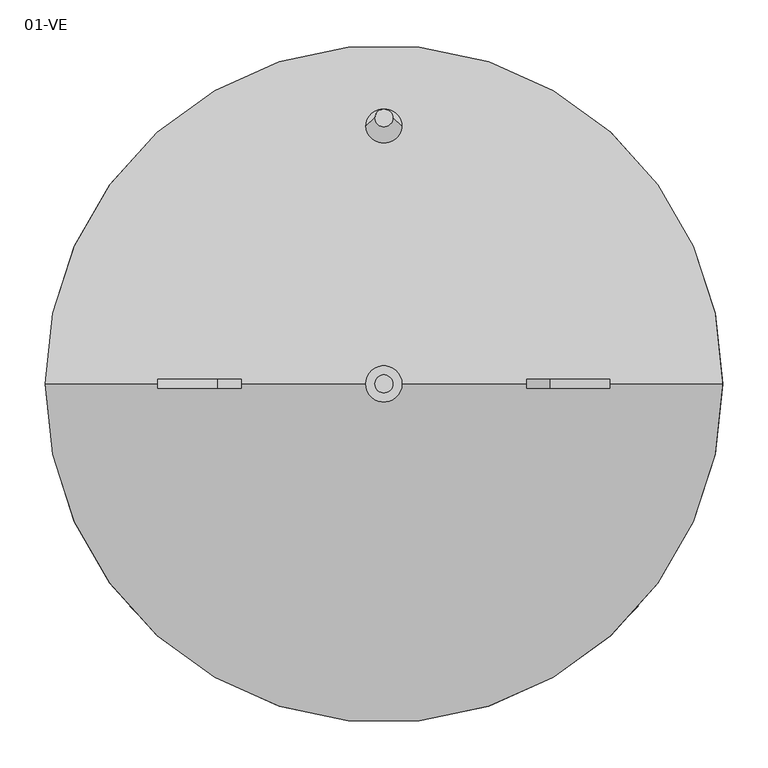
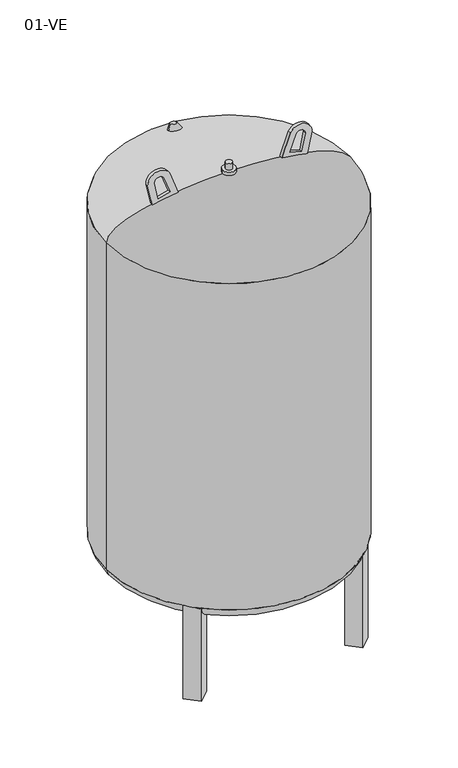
"""IFC4 building model written with IfcOpenShell, lengths in millimetres: proxy geometry, VASO DE EXPANSIÓN 500 L : 01-VE."""

from ifc_helpers import new_model, si_unit, point, frame, frame_2d, origin, origin_with_axes, origin_2d, place, context, project, spatial, polyline, circle_curve, ellipse_curve, trimmed, segment, composite_curve, outline, extrude, source, transform, mapped, element, save
from ifc_brep_helpers import plane_surface, revolved_surface, spline_surface, advanced_brep


def proxy_01_ve_54f42642(model_context):
    return source(origin(), model_context, "Body", "SolidModel", [
        extrude(outline(composite_curve([segment(trimmed(circle_curve(origin_2d(), 100.0), [point((0.0, -100.0))], [point((0.0, 100.0))], False, "CARTESIAN"), True, "CONTINUOUS"), segment(trimmed(circle_curve(origin_2d(), 100.0), [point((0.0, 100.0))], [point((0.0, -100.0))], False, "CARTESIAN"), True, "CONTINUOUS")], self_intersect=False), holes=[composite_curve([segment(trimmed(circle_curve(frame_2d((31.2584903, -73.6403883)), 9.0), [point((31.2584903, -82.6403883))], [point((31.2584903, -64.6403883))], True, "CARTESIAN"), True, "CONTINUOUS"), segment(trimmed(circle_curve(frame_2d((31.2584903, -73.6403883)), 9.0), [point((31.2584903, -64.6403883))], [point((31.2584903, -82.6403883))], True, "CARTESIAN"), True, "CONTINUOUS")], self_intersect=False), composite_curve([segment(trimmed(circle_curve(frame_2d((74.1747084, -29.9685275)), 9.0), [point((74.1747084, -38.9685275))], [point((74.1747084, -20.9685275))], True, "CARTESIAN"), True, "CONTINUOUS"), segment(trimmed(circle_curve(frame_2d((74.1747084, -29.9685275)), 9.0), [point((74.1747084, -20.9685275))], [point((74.1747084, -38.9685275))], True, "CARTESIAN"), True, "CONTINUOUS")], self_intersect=False), composite_curve([segment(trimmed(circle_curve(frame_2d((73.6403883, 31.2584903)), 9.0), [point((73.6403883, 22.2584903))], [point((73.6403883, 40.2584903))], True, "CARTESIAN"), True, "CONTINUOUS"), segment(trimmed(circle_curve(frame_2d((73.6403883, 31.2584903)), 9.0), [point((73.6403883, 40.2584903))], [point((73.6403883, 22.2584903))], True, "CARTESIAN"), True, "CONTINUOUS")], self_intersect=False), composite_curve([segment(trimmed(circle_curve(frame_2d((29.9685275, 74.1747084)), 9.0), [point((29.9685275, 65.1747084))], [point((29.9685275, 83.1747084))], True, "CARTESIAN"), True, "CONTINUOUS"), segment(trimmed(circle_curve(frame_2d((29.9685275, 74.1747084)), 9.0), [point((29.9685275, 83.1747084))], [point((29.9685275, 65.1747084))], True, "CARTESIAN"), True, "CONTINUOUS")], self_intersect=False), composite_curve([segment(trimmed(circle_curve(frame_2d((-31.2584903, 73.6403883)), 9.0), [point((-31.2584903, 64.6403883))], [point((-31.2584903, 82.6403883))], True, "CARTESIAN"), True, "CONTINUOUS"), segment(trimmed(circle_curve(frame_2d((-31.2584903, 73.6403883)), 9.0), [point((-31.2584903, 82.6403883))], [point((-31.2584903, 64.6403883))], True, "CARTESIAN"), True, "CONTINUOUS")], self_intersect=False), composite_curve([segment(trimmed(circle_curve(frame_2d((-74.1747084, 29.9685275)), 9.0), [point((-74.1747084, 20.9685275))], [point((-74.1747084, 38.9685275))], True, "CARTESIAN"), True, "CONTINUOUS"), segment(trimmed(circle_curve(frame_2d((-74.1747084, 29.9685275)), 9.0), [point((-74.1747084, 38.9685275))], [point((-74.1747084, 20.9685275))], True, "CARTESIAN"), True, "CONTINUOUS")], self_intersect=False), composite_curve([segment(trimmed(circle_curve(frame_2d((-73.6403883, -31.2584903)), 9.0), [point((-73.6403883, -40.2584903))], [point((-73.6403883, -22.2584903))], True, "CARTESIAN"), True, "CONTINUOUS"), segment(trimmed(circle_curve(frame_2d((-73.6403883, -31.2584903)), 9.0), [point((-73.6403883, -22.2584903))], [point((-73.6403883, -40.2584903))], True, "CARTESIAN"), True, "CONTINUOUS")], self_intersect=False), composite_curve([segment(trimmed(circle_curve(frame_2d((-29.9685275, -74.1747084)), 9.0), [point((-29.9685275, -83.1747084))], [point((-29.9685275, -65.1747084))], True, "CARTESIAN"), True, "CONTINUOUS"), segment(trimmed(circle_curve(frame_2d((-29.9685275, -74.1747084)), 9.0), [point((-29.9685275, -65.1747084))], [point((-29.9685275, -83.1747084))], True, "CARTESIAN"), True, "CONTINUOUS")], self_intersect=False), composite_curve([segment(trimmed(circle_curve(origin_2d(), 40.0), [point((0.0, -40.0))], [point((0.0, 40.0))], True, "CARTESIAN"), True, "CONTINUOUS"), segment(trimmed(circle_curve(origin_2d(), 40.0), [point((0.0, 40.0))], [point((0.0, -40.0))], True, "CARTESIAN"), True, "CONTINUOUS")], self_intersect=False)]), frame((0.0, 0.0, 155.0), z_axis=(0.0, 0.0, 1.0), x_axis=(1.0, 0.0, 0.0)), (0.0, 0.0, 1.0), 20.0),
        advanced_brep(
        [(-10.0, 294.4103314, 1426.5797504), (10.0, 294.4103314, 1426.5797504), (-30.0, 275.7887129, 1400.5111126), (30.0, 275.7887129, 1400.5111126)],
        [
            (0, 1, circle_curve(frame((0.0, 294.4103314, 1426.5797504), z_axis=(0.0, 0.2588190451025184, 0.965925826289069), x_axis=(1.0, 0.0, 0.0)), 10.0)),
            (1, 0, circle_curve(frame((0.0, 294.4103314, 1426.5797504), z_axis=(0.0, 0.2588190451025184, 0.965925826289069), x_axis=(1.0, 0.0, 0.0)), 10.0)),
            (2, 3, circle_curve(frame((0.0, 275.7887129, 1400.5111126), z_axis=(0.0, -0.2588190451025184, -0.965925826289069), x_axis=(1.0, 0.0, 0.0)), 30.0)),
            (3, 2, circle_curve(frame((0.0, 275.7887129, 1400.5111126), z_axis=(0.0, -0.2588190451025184, -0.965925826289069), x_axis=(1.0, 0.0, 0.0)), 30.0)),
            (3, 1),
            (0, 2),
        ],
        [
            plane_surface(frame((0.0, 294.4103314, 1426.5797504), z_axis=(0.0, 0.2588190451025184, 0.965925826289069), x_axis=(0.0, -0.965925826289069, 0.2588190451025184))),
            plane_surface(frame((0.0, 275.7887129, 1400.5111126), z_axis=(0.0, -0.2588190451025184, -0.965925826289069), x_axis=(0.0, -0.965925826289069, 0.2588190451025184))),
            spline_surface(2, 1, [[(-30.0, 275.7887129, 1400.5111126), (-10.0, 294.4103314, 1426.5797504)], [(-30.0, 246.81093811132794, 1408.2756839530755), (-10.0, 284.7510731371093, 1429.1679408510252)], [(0.0, 246.81093811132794, 1408.2756839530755), (0.0, 284.7510731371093, 1429.1679408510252)], [(30.0, 246.81093811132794, 1408.2756839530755), (10.0, 284.7510731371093, 1429.1679408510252)], [(30.0, 275.7887129, 1400.5111126), (10.0, 294.4103314, 1426.5797504)]], [3, 2, 3], [2, 2], [0.0, 1.0, 2.0], [0.0, 1.0], weights=[[1.0, 1.0], [0.7071067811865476, 0.7071067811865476], [1.0, 1.0], [0.7071067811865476, 0.7071067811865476], [1.0, 1.0]]),
            spline_surface(2, 1, [[(30.0, 275.7887129, 1400.5111126), (10.0, 294.4103314, 1426.5797504)], [(30.0, 304.7664876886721, 1392.7465412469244), (10.0, 304.06958966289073, 1423.9915599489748)], [(0.0, 304.7664876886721, 1392.7465412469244), (0.0, 304.06958966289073, 1423.9915599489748)], [(-30.0, 304.7664876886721, 1392.7465412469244), (-10.0, 304.06958966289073, 1423.9915599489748)], [(-30.0, 275.7887129, 1400.5111126), (-10.0, 294.4103314, 1426.5797504)]], [3, 2, 3], [2, 2], [0.0, 1.0, 2.0], [0.0, 1.0], weights=[[1.0, 1.0], [0.7071067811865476, 0.7071067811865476], [1.0, 1.0], [0.7071067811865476, 0.7071067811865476], [1.0, 1.0]]),
        ],
        [
            (0, [[1, 2]]),
            (1, [[3, 4]]),
            (2, [[-4, 5, -1, 6]]),
            (3, [[-3, -6, -2, -5]]),
        ],
    ),
        extrude(outline(composite_curve([segment(trimmed(circle_curve(origin_2d(), 10.0), [point((-10.0, 0.0))], [point((10.0, 0.0))], False, "CARTESIAN"), True, "CONTINUOUS"), segment(trimmed(circle_curve(origin_2d(), 10.0), [point((10.0, 0.0))], [point((-10.0, 0.0))], False, "CARTESIAN"), True, "CONTINUOUS")], self_intersect=False)), frame((0.0, 0.0, 1460.0), z_axis=(0.0, 0.0, 1.0), x_axis=(1.0, 0.0, 0.0)), (0.0, 0.0, 1.0), 20.0),
        extrude(outline(composite_curve([segment(trimmed(circle_curve(origin_2d(), 20.0), [point((-20.0, 0.0))], [point((20.0, 0.0))], False, "CARTESIAN"), True, "CONTINUOUS"), segment(trimmed(circle_curve(origin_2d(), 20.0), [point((20.0, 0.0))], [point((-20.0, 0.0))], False, "CARTESIAN"), True, "CONTINUOUS")], self_intersect=False)), frame((0.0, 0.0, 1450.0), z_axis=(0.0, 0.0, 1.0), x_axis=(1.0, 0.0, 0.0)), (0.0, 0.0, 1.0), 10.0),
        extrude(outline(composite_curve([segment(trimmed(circle_curve(origin_2d(), 40.0), [point((-40.0, 0.0))], [point((40.0, 0.0))], False, "CARTESIAN"), True, "CONTINUOUS"), segment(trimmed(circle_curve(origin_2d(), 40.0), [point((40.0, 0.0))], [point((-40.0, 0.0))], False, "CARTESIAN"), True, "CONTINUOUS")], self_intersect=False)), frame((0.0, 0.0, 175.0), z_axis=(0.0, 0.0, 1.0), x_axis=(1.0, 0.0, 0.0)), (0.0, 0.0, 1.0), 25.0),
        extrude(outline(composite_curve([segment(polyline([(1436.7455906, -156.6811969), (1511.9210003, -184.0428083)]), True, "CONTINUOUS"), segment(trimmed(circle_curve(frame_2d((1494.1999837, -214.7679564)), 35.4692705), [point((1511.9210003, -184.0428083))], [point((1492.9464102, -250.2150678))], False, "CARTESIAN"), True, "CONTINUOUS"), segment(polyline([(1492.9464102, -250.2150678), (1414.6946021, -233.5821325), (1436.7455906, -156.6811969)]), True, "CONTINUOUS")], self_intersect=False), holes=[composite_curve([segment(trimmed(circle_curve(frame_2d((1494.1999837, -214.7679564)), 15.4692705), [point((1495.0442705, -230.2141699))], [point((1503.1012256, -202.1162283))], True, "CARTESIAN"), True, "CONTINUOUS"), segment(polyline([(1503.1012256, -202.1162283), (1450.059127, -182.8104833), (1439.8315336, -218.4783404), (1495.0442705, -230.2141699)]), True, "CONTINUOUS")], self_intersect=False)]), frame((0.0, -5.0, 0.0), z_axis=(0.0, 1.0, 0.0), x_axis=(0.0, 0.0, 1.0)), (0.0, 0.0, 1.0), 10.0),
        extrude(outline(composite_curve([segment(polyline([(1436.7455906, 156.6811969), (1414.6946021, 233.5821325), (1492.9464102, 250.2150678)]), True, "CONTINUOUS"), segment(trimmed(circle_curve(frame_2d((1494.1999837, 214.7679564)), 35.4692705), [point((1492.9464102, 250.2150678))], [point((1511.9210003, 184.0428083))], False, "CARTESIAN"), True, "CONTINUOUS"), segment(polyline([(1511.9210003, 184.0428083), (1436.7455906, 156.6811969)]), True, "CONTINUOUS")], self_intersect=False), holes=[composite_curve([segment(polyline([(1495.0442705, 230.2141699), (1439.8315336, 218.4783404), (1450.059127, 182.8104833), (1503.1012256, 202.1162283)]), True, "CONTINUOUS"), segment(trimmed(circle_curve(frame_2d((1494.1999837, 214.7679564)), 15.4692705), [point((1503.1012256, 202.1162283))], [point((1495.0442705, 230.2141699))], True, "CARTESIAN"), True, "CONTINUOUS")], self_intersect=False)]), frame((0.0, -5.0, 0.0), z_axis=(0.0, 1.0, 0.0), x_axis=(0.0, 0.0, 1.0)), (0.0, 0.0, 1.0), 10.0),
        extrude(outline(polyline([(-25.0, 372.9565186), (25.0, 372.9565186), (25.0, 322.9565186), (-25.0, 322.9565186), (-25.0, 372.9565186)])), origin_with_axes(), (0.0, 0.0, 1.0), 300.0),
        extrude(outline(polyline([(-246.0424138, -281.3977529), (-281.3977529, -246.0424138), (-246.0424138, -210.6870748), (-210.6870748, -246.0424138), (-246.0424138, -281.3977529)])), origin_with_axes(), (0.0, 0.0, 1.0), 300.0),
        extrude(outline(polyline([(281.3977529, -246.0424138), (246.0424138, -281.3977529), (210.6870748, -246.0424138), (246.0424138, -210.6870748), (281.3977529, -246.0424138)])), origin_with_axes(), (0.0, 0.0, 1.0), 300.0),
        advanced_brep(
        [(0.0, 0.0, 300.0), (375.0, 0.0, 300.0), (-375.0, 0.0, 300.0), (0.0, 0.0, 200.0)],
        [
            (0, 1),
            (1, 2, circle_curve(frame((0.0, 0.0, 300.0), z_axis=(0.0, 0.0, 1.0), x_axis=(1.0, 0.0, 0.0)), 375.0)),
            (2, 0),
            (2, 1, circle_curve(frame((0.0, 0.0, 300.0), z_axis=(0.0, 0.0, 1.0), x_axis=(1.0, 0.0, 0.0)), 375.0)),
            (1, 3, ellipse_curve(frame((0.0, 0.0, 300.0), z_axis=(0.0, 1.0, 0.0), x_axis=(1.0, 0.0, 0.0)), 375.0, 100.0)),
            (3, 2, ellipse_curve(frame((0.0, 0.0, 300.0), z_axis=(0.0, 1.0, 0.0), x_axis=(-1.0, 0.0, 0.0)), 375.0, 100.0)),
        ],
        [
            plane_surface(frame((0.0, 0.0, 300.0), z_axis=(0.0, 0.0, 1.0), x_axis=(1.0, 0.0, 0.0))),
            revolved_surface(trimmed(ellipse_curve(frame((0.0, 0.0, 300.0), z_axis=(0.0, -1.0, 0.0), x_axis=(1.0, 0.0, 0.0)), 375.0, 100.0), [point((0.0, 0.0, 200.0))], [point((375.0, 0.0, 300.0))], True, "CARTESIAN"), (0.0, 0.0, 1689.7688894), (0.0, 0.0, 1.0)),
        ],
        [
            (0, [[1, 2, 3]]),
            (0, [[-3, 4, -1]]),
            (1, [[-2, 5, 6]]),
            (1, [[-4, -6, -5]]),
        ],
    ),
        advanced_brep(
        [(-375.0, 0.0, 1350.0), (375.0, 0.0, 1350.0), (0.0, 0.0, 1350.0), (0.0, 0.0, 1450.0)],
        [
            (0, 1, circle_curve(frame((0.0, 0.0, 1350.0), z_axis=(0.0, 0.0, -1.0), x_axis=(1.0, 0.0, 0.0)), 375.0)),
            (1, 2),
            (2, 0),
            (1, 0, circle_curve(frame((0.0, 0.0, 1350.0), z_axis=(0.0, 0.0, -1.0), x_axis=(1.0, 0.0, 0.0)), 375.0)),
            (3, 1, ellipse_curve(frame((0.0, 0.0, 1350.0), z_axis=(0.0, 1.0, 0.0), x_axis=(1.0, 0.0, 0.0)), 375.0, 100.0)),
            (0, 3, ellipse_curve(frame((0.0, 0.0, 1350.0), z_axis=(0.0, 1.0, 0.0), x_axis=(-1.0, 0.0, 0.0)), 375.0, 100.0)),
        ],
        [
            plane_surface(frame((0.0, 0.0, 1350.0), z_axis=(0.0, 0.0, -1.0), x_axis=(1.0, 0.0, 0.0))),
            revolved_surface(trimmed(ellipse_curve(frame((0.0, 0.0, 1350.0), z_axis=(0.0, -1.0, 0.0), x_axis=(1.0, 0.0, 0.0)), 375.0, 100.0), [point((375.0, 0.0, 1350.0))], [point((0.0, 0.0, 1450.0))], True, "CARTESIAN"), (0.0, 0.0, 1689.7688894), (0.0, 0.0, 1.0)),
        ],
        [
            (0, [[1, 2, 3]]),
            (0, [[4, -3, -2]]),
            (1, [[5, -1, 6]]),
            (1, [[-6, -4, -5]]),
        ],
    ),
        extrude(outline(composite_curve([segment(trimmed(circle_curve(origin_2d(), 375.0), [point((-375.0, 0.0))], [point((375.0, 0.0))], False, "CARTESIAN"), True, "CONTINUOUS"), segment(trimmed(circle_curve(origin_2d(), 375.0), [point((375.0, 0.0))], [point((-375.0, 0.0))], False, "CARTESIAN"), True, "CONTINUOUS")], self_intersect=False)), frame((0.0, 0.0, 300.0), z_axis=(0.0, 0.0, 1.0), x_axis=(1.0, 0.0, 0.0)), (0.0, 0.0, 1.0), 1050.0),
    ])


if __name__ == "__main__":
    model = new_model("IFC4")
    model_context = context("Model", 3, world=origin())
    ifc_project = project(units=[si_unit("LENGTHUNIT", "METRE", prefix="MILLI")], contexts=[model_context])
    site = spatial("IfcSite", under=ifc_project)
    building = spatial("IfcBuilding", under=site)
    placement = place(None, origin())
    proxy_01_ve_shape = proxy_01_ve_54f42642(model_context)
    element("IfcBuildingElementProxy", 1, Name="VASO DE EXPANSIÓN 500 L : 01-VE", ObjectType="VASO DE EXPANSIÓN 500 L : 01-VE", at=placement, inside=building, context=model_context, shape_type="MappedRepresentation", body=[
        mapped(proxy_01_ve_shape, transform((0.0, 0.0, 0.0), x_axis=(1.0, 0.0, 0.0), y_axis=(0.0, 1.0, 0.0), z_axis=(0.0, 0.0, 1.0))),
    ])
    save(model, "model.ifc")
